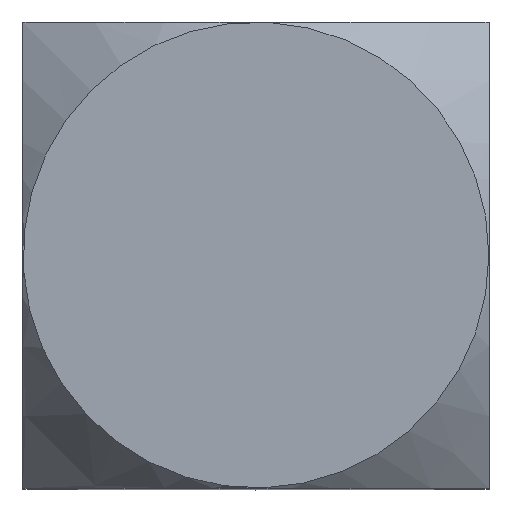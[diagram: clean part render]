
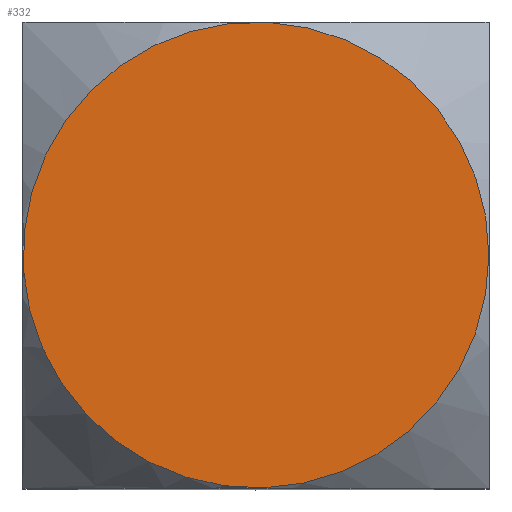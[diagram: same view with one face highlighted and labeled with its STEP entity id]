
A CAD part, top view. The second image highlights one B-rep face of the part: STEP entity #332.
In plain terms, the highlighted planar face has unit normal (0, 0, 1).
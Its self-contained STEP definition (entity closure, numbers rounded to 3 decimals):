
#51=ORIENTED_EDGE('',*,*,#105,.T.);
#105=EDGE_CURVE('',#132,#132,#152,.T.);
#132=VERTEX_POINT('',#443);
#152=CIRCLE('',#354,9.495);
#163=EDGE_LOOP('',(#51));
#187=FACE_BOUND('',#163,.T.);
#212=PLANE('',#353);
#332=ADVANCED_FACE('',(#187),#212,.T.);
#353=AXIS2_PLACEMENT_3D('',#441,#382,#383);
#354=AXIS2_PLACEMENT_3D('',#442,#384,#385);
#382=DIRECTION('',(0.,0.,1.));
#383=DIRECTION('',(1.,0.,0.));
#384=DIRECTION('',(0.,0.,1.));
#385=DIRECTION('',(1.,0.,0.));
#441=CARTESIAN_POINT('',(0.,0.,0.));
#442=CARTESIAN_POINT('',(0.,0.,0.));
#443=CARTESIAN_POINT('',(9.495,0.,0.));
